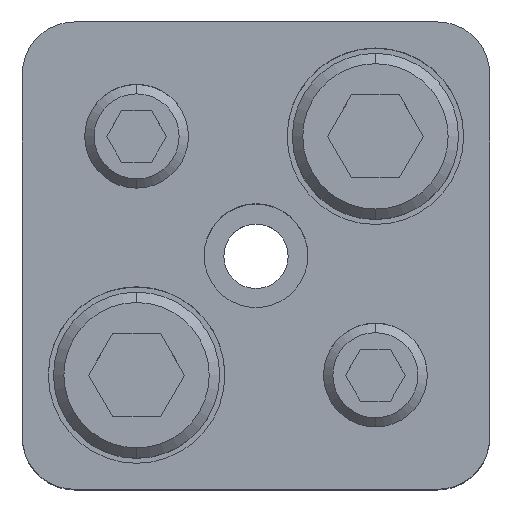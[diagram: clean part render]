
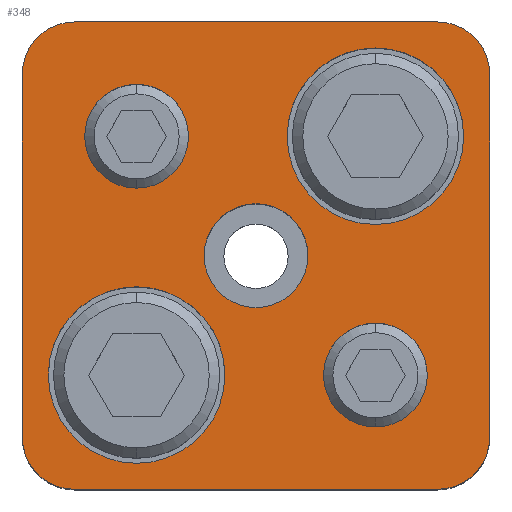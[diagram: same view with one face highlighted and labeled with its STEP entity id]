
A CAD part, top view. The second image highlights one B-rep face of the part: STEP entity #348.
In plain terms, the highlighted planar face has unit normal (0, 0, 1).
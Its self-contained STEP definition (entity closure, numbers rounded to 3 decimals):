
#173=PLANE('',#2995);
#248=FACE_BOUND('',#745,.T.);
#249=FACE_BOUND('',#746,.T.);
#250=FACE_BOUND('',#747,.T.);
#251=FACE_BOUND('',#748,.T.);
#252=FACE_BOUND('',#749,.T.);
#253=FACE_BOUND('',#750,.T.);
#348=ADVANCED_FACE('',(#248,#249,#250,#251,#252,#253),#173,.T.);
#745=EDGE_LOOP('',(#1597,#1598,#1599,#1600,#1601,#1602,#1603,#1604));
#746=EDGE_LOOP('',(#1605,#1606));
#747=EDGE_LOOP('',(#1607,#1608));
#748=EDGE_LOOP('',(#1609,#1610));
#749=EDGE_LOOP('',(#1611,#1612));
#750=EDGE_LOOP('',(#1613,#1614));
#934=LINE('',#4430,#1142);
#935=LINE('',#4434,#1143);
#936=LINE('',#4438,#1144);
#937=LINE('',#4442,#1145);
#1142=VECTOR('',#3559,1.);
#1143=VECTOR('',#3562,1.);
#1144=VECTOR('',#3565,1.);
#1145=VECTOR('',#3568,1.);
#1597=ORIENTED_EDGE('',*,*,#2454,.T.);
#1598=ORIENTED_EDGE('',*,*,#2455,.T.);
#1599=ORIENTED_EDGE('',*,*,#2456,.T.);
#1600=ORIENTED_EDGE('',*,*,#2457,.T.);
#1601=ORIENTED_EDGE('',*,*,#2458,.T.);
#1602=ORIENTED_EDGE('',*,*,#2459,.T.);
#1603=ORIENTED_EDGE('',*,*,#2460,.T.);
#1604=ORIENTED_EDGE('',*,*,#2461,.T.);
#1605=ORIENTED_EDGE('',*,*,#2462,.F.);
#1606=ORIENTED_EDGE('',*,*,#2463,.F.);
#1607=ORIENTED_EDGE('',*,*,#2464,.F.);
#1608=ORIENTED_EDGE('',*,*,#2465,.F.);
#1609=ORIENTED_EDGE('',*,*,#2440,.F.);
#1610=ORIENTED_EDGE('',*,*,#2436,.F.);
#1611=ORIENTED_EDGE('',*,*,#2434,.F.);
#1612=ORIENTED_EDGE('',*,*,#2430,.F.);
#1613=ORIENTED_EDGE('',*,*,#2466,.T.);
#1614=ORIENTED_EDGE('',*,*,#2467,.T.);
#2135=VERTEX_POINT('',#4378);
#2136=VERTEX_POINT('',#4379);
#2139=VERTEX_POINT('',#4391);
#2140=VERTEX_POINT('',#4392);
#2151=VERTEX_POINT('',#4428);
#2152=VERTEX_POINT('',#4429);
#2153=VERTEX_POINT('',#4431);
#2154=VERTEX_POINT('',#4433);
#2155=VERTEX_POINT('',#4435);
#2156=VERTEX_POINT('',#4437);
#2157=VERTEX_POINT('',#4439);
#2158=VERTEX_POINT('',#4441);
#2159=VERTEX_POINT('',#4444);
#2160=VERTEX_POINT('',#4445);
#2161=VERTEX_POINT('',#4448);
#2162=VERTEX_POINT('',#4449);
#2163=VERTEX_POINT('',#4452);
#2164=VERTEX_POINT('',#4453);
#2430=EDGE_CURVE('',#2135,#2136,#2735,.T.);
#2434=EDGE_CURVE('',#2136,#2135,#2737,.T.);
#2436=EDGE_CURVE('',#2139,#2140,#2739,.T.);
#2440=EDGE_CURVE('',#2140,#2139,#2741,.T.);
#2454=EDGE_CURVE('',#2151,#2152,#2751,.T.);
#2455=EDGE_CURVE('',#2152,#2153,#934,.T.);
#2456=EDGE_CURVE('',#2153,#2154,#2752,.T.);
#2457=EDGE_CURVE('',#2154,#2155,#935,.T.);
#2458=EDGE_CURVE('',#2155,#2156,#2753,.T.);
#2459=EDGE_CURVE('',#2156,#2157,#936,.T.);
#2460=EDGE_CURVE('',#2157,#2158,#2754,.T.);
#2461=EDGE_CURVE('',#2158,#2151,#937,.T.);
#2462=EDGE_CURVE('',#2159,#2160,#2755,.T.);
#2463=EDGE_CURVE('',#2160,#2159,#2756,.T.);
#2464=EDGE_CURVE('',#2161,#2162,#2757,.T.);
#2465=EDGE_CURVE('',#2162,#2161,#2758,.T.);
#2466=EDGE_CURVE('',#2163,#2164,#2759,.T.);
#2467=EDGE_CURVE('',#2164,#2163,#2760,.T.);
#2735=CIRCLE('',#2959,5.);
#2737=CIRCLE('',#2962,5.);
#2739=CIRCLE('',#2966,5.);
#2741=CIRCLE('',#2969,5.);
#2751=CIRCLE('',#2985,5.);
#2752=CIRCLE('',#2986,5.);
#2753=CIRCLE('',#2987,5.);
#2754=CIRCLE('',#2988,5.);
#2755=CIRCLE('',#2989,8.5);
#2756=CIRCLE('',#2990,8.5);
#2757=CIRCLE('',#2991,8.5);
#2758=CIRCLE('',#2992,8.5);
#2759=CIRCLE('',#2993,5.);
#2760=CIRCLE('',#2994,5.);
#2959=AXIS2_PLACEMENT_3D('',#4377,#3497,#3498);
#2962=AXIS2_PLACEMENT_3D('',#4386,#3505,#3506);
#2966=AXIS2_PLACEMENT_3D('',#4390,#3513,#3514);
#2969=AXIS2_PLACEMENT_3D('',#4399,#3521,#3522);
#2985=AXIS2_PLACEMENT_3D('',#4427,#3557,#3558);
#2986=AXIS2_PLACEMENT_3D('',#4432,#3560,#3561);
#2987=AXIS2_PLACEMENT_3D('',#4436,#3563,#3564);
#2988=AXIS2_PLACEMENT_3D('',#4440,#3566,#3567);
#2989=AXIS2_PLACEMENT_3D('',#4443,#3569,#3570);
#2990=AXIS2_PLACEMENT_3D('',#4446,#3571,#3572);
#2991=AXIS2_PLACEMENT_3D('',#4447,#3573,#3574);
#2992=AXIS2_PLACEMENT_3D('',#4450,#3575,#3576);
#2993=AXIS2_PLACEMENT_3D('',#4451,#3577,#3578);
#2994=AXIS2_PLACEMENT_3D('',#4454,#3579,#3580);
#2995=AXIS2_PLACEMENT_3D('',#4455,#3581,#3582);
#3497=DIRECTION('',(0.,0.,1.));
#3498=DIRECTION('',(-1.,0.,0.));
#3505=DIRECTION('',(0.,0.,1.));
#3506=DIRECTION('',(1.,0.,0.));
#3513=DIRECTION('',(0.,0.,1.));
#3514=DIRECTION('',(-1.,0.,0.));
#3521=DIRECTION('',(0.,0.,1.));
#3522=DIRECTION('',(1.,0.,0.));
#3557=DIRECTION('',(0.,0.,1.));
#3558=DIRECTION('',(-0.707,0.707,0.));
#3559=DIRECTION('',(0.,1.,0.));
#3560=DIRECTION('',(0.,0.,1.));
#3561=DIRECTION('',(-0.707,-0.707,0.));
#3562=DIRECTION('',(-1.,0.,0.));
#3563=DIRECTION('',(0.,0.,1.));
#3564=DIRECTION('',(0.707,-0.707,0.));
#3565=DIRECTION('',(0.,-1.,0.));
#3566=DIRECTION('',(0.,0.,1.));
#3567=DIRECTION('',(0.707,0.707,0.));
#3568=DIRECTION('',(1.,0.,0.));
#3569=DIRECTION('',(0.,0.,1.));
#3570=DIRECTION('',(1.,0.,0.));
#3571=DIRECTION('',(0.,0.,1.));
#3572=DIRECTION('',(-1.,0.,0.));
#3573=DIRECTION('',(0.,0.,1.));
#3574=DIRECTION('',(1.,0.,0.));
#3575=DIRECTION('',(0.,0.,1.));
#3576=DIRECTION('',(-1.,0.,0.));
#3577=DIRECTION('',(0.,0.,-1.));
#3578=DIRECTION('',(-1.,0.,0.));
#3579=DIRECTION('',(0.,0.,-1.));
#3580=DIRECTION('',(1.,0.,0.));
#3581=DIRECTION('',(0.,0.,1.));
#3582=DIRECTION('',(-1.,0.,0.));
#4377=CARTESIAN_POINT('',(11.5,-11.5,40.));
#4378=CARTESIAN_POINT('',(11.5,-16.5,40.));
#4379=CARTESIAN_POINT('',(11.5,-6.5,40.));
#4386=CARTESIAN_POINT('',(11.5,-11.5,40.));
#4390=CARTESIAN_POINT('',(-11.5,11.5,40.));
#4391=CARTESIAN_POINT('',(-11.5,6.5,40.));
#4392=CARTESIAN_POINT('',(-11.5,16.5,40.));
#4399=CARTESIAN_POINT('',(-11.5,11.5,40.));
#4427=CARTESIAN_POINT('',(17.5,-17.5,40.));
#4428=CARTESIAN_POINT('',(17.5,-22.5,40.));
#4429=CARTESIAN_POINT('',(22.5,-17.5,40.));
#4430=CARTESIAN_POINT('',(22.5,17.5,40.));
#4431=CARTESIAN_POINT('',(22.5,17.5,40.));
#4432=CARTESIAN_POINT('',(17.5,17.5,40.));
#4433=CARTESIAN_POINT('',(17.5,22.5,40.));
#4434=CARTESIAN_POINT('',(-17.5,22.5,40.));
#4435=CARTESIAN_POINT('',(-17.5,22.5,40.));
#4436=CARTESIAN_POINT('',(-17.5,17.5,40.));
#4437=CARTESIAN_POINT('',(-22.5,17.5,40.));
#4438=CARTESIAN_POINT('',(-22.5,17.5,40.));
#4439=CARTESIAN_POINT('',(-22.5,-17.5,40.));
#4440=CARTESIAN_POINT('',(-17.5,-17.5,40.));
#4441=CARTESIAN_POINT('',(-17.5,-22.5,40.));
#4442=CARTESIAN_POINT('',(-17.5,-22.5,40.));
#4443=CARTESIAN_POINT('',(11.5,11.5,40.));
#4444=CARTESIAN_POINT('',(11.5,20.,40.));
#4445=CARTESIAN_POINT('',(11.5,3.,40.));
#4446=CARTESIAN_POINT('',(11.5,11.5,40.));
#4447=CARTESIAN_POINT('',(-11.5,-11.5,40.));
#4448=CARTESIAN_POINT('',(-11.5,-3.,40.));
#4449=CARTESIAN_POINT('',(-11.5,-20.,40.));
#4450=CARTESIAN_POINT('',(-11.5,-11.5,40.));
#4451=CARTESIAN_POINT('',(0.,0.,40.));
#4452=CARTESIAN_POINT('',(0.,5.,40.));
#4453=CARTESIAN_POINT('',(0.,-5.,40.));
#4454=CARTESIAN_POINT('',(0.,0.,40.));
#4455=CARTESIAN_POINT('',(17.5,-22.5,40.));
